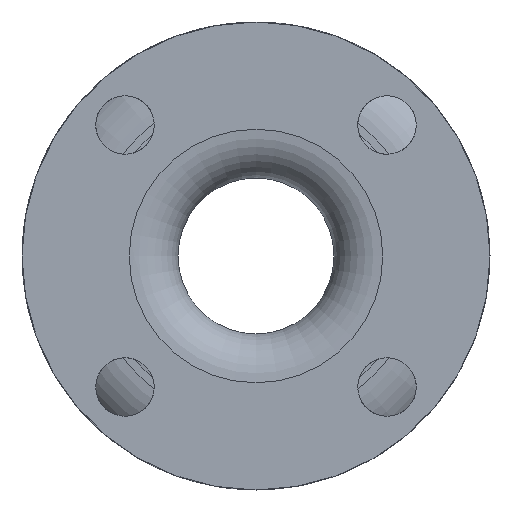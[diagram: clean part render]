
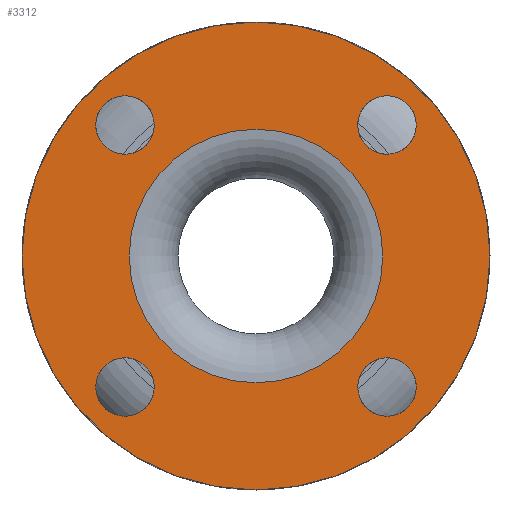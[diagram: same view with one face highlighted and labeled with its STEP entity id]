
A CAD part, left-side view. The second image highlights one B-rep face of the part: STEP entity #3312.
In plain terms, the highlighted planar face has unit normal (-1, 0, 0).
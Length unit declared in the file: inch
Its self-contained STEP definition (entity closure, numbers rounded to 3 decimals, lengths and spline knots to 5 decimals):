
#185=FACE_BOUND('',#670,.T.);
#186=FACE_BOUND('',#671,.T.);
#187=FACE_BOUND('',#672,.T.);
#188=FACE_BOUND('',#673,.T.);
#189=FACE_BOUND('',#674,.T.);
#425=FACE_OUTER_BOUND('',#669,.T.);
#669=EDGE_LOOP('',(#2843));
#670=EDGE_LOOP('',(#2844));
#671=EDGE_LOOP('',(#2845));
#672=EDGE_LOOP('',(#2846));
#673=EDGE_LOOP('',(#2847));
#674=EDGE_LOOP('',(#2848));
#1256=CIRCLE('',#3684,0.375);
#1257=CIRCLE('',#3686,0.375);
#1258=CIRCLE('',#3688,0.375);
#1259=CIRCLE('',#3690,0.375);
#1283=CIRCLE('',#3733,1.625);
#1284=CIRCLE('',#3735,3.);
#1565=VERTEX_POINT('',#5825);
#1566=VERTEX_POINT('',#5828);
#1567=VERTEX_POINT('',#5831);
#1568=VERTEX_POINT('',#5834);
#1592=VERTEX_POINT('',#5901);
#1593=VERTEX_POINT('',#5904);
#1996=EDGE_CURVE('',#1565,#1565,#1256,.T.);
#1997=EDGE_CURVE('',#1566,#1566,#1257,.T.);
#1998=EDGE_CURVE('',#1567,#1567,#1258,.T.);
#1999=EDGE_CURVE('',#1568,#1568,#1259,.T.);
#2023=EDGE_CURVE('',#1592,#1592,#1283,.T.);
#2024=EDGE_CURVE('',#1593,#1593,#1284,.T.);
#2843=ORIENTED_EDGE('',*,*,#2024,.F.);
#2844=ORIENTED_EDGE('',*,*,#2023,.T.);
#2845=ORIENTED_EDGE('',*,*,#1996,.T.);
#2846=ORIENTED_EDGE('',*,*,#1997,.T.);
#2847=ORIENTED_EDGE('',*,*,#1998,.T.);
#2848=ORIENTED_EDGE('',*,*,#1999,.T.);
#2957=PLANE('',#3734);
#3312=ADVANCED_FACE('',(#425,#185,#186,#187,#188,#189),#2957,.T.);
#3684=AXIS2_PLACEMENT_3D('',#5826,#4632,#4633);
#3686=AXIS2_PLACEMENT_3D('',#5829,#4636,#4637);
#3688=AXIS2_PLACEMENT_3D('',#5832,#4640,#4641);
#3690=AXIS2_PLACEMENT_3D('',#5835,#4644,#4645);
#3733=AXIS2_PLACEMENT_3D('',#5902,#4730,#4731);
#3734=AXIS2_PLACEMENT_3D('',#5903,#4732,#4733);
#3735=AXIS2_PLACEMENT_3D('',#5905,#4734,#4735);
#4632=DIRECTION('center_axis',(1.,0.,0.));
#4633=DIRECTION('ref_axis',(0.,0.,
1.));
#4636=DIRECTION('center_axis',(1.,0.,0.));
#4637=DIRECTION('ref_axis',(0.,1.,0.));
#4640=DIRECTION('center_axis',(1.,0.,0.));
#4641=DIRECTION('ref_axis',(0.,0.,
-1.));
#4644=DIRECTION('center_axis',(1.,0.,0.));
#4645=DIRECTION('ref_axis',(0.,-1.,0.));
#4730=DIRECTION('center_axis',(1.,0.,0.));
#4731=DIRECTION('ref_axis',(0.,0.,-1.));
#4732=DIRECTION('center_axis',(-1.,0.,0.));
#4733=DIRECTION('ref_axis',(0.,0.,1.));
#4734=DIRECTION('center_axis',(1.,0.,0.));
#4735=DIRECTION('ref_axis',(0.,0.,-1.));
#5825=CARTESIAN_POINT('',(-7.,-1.67938,-2.05438));
#5826=CARTESIAN_POINT('Origin',(-7.,-1.67938,-1.67938));
#5828=CARTESIAN_POINT('',(-7.,-2.05438,1.67938));
#5829=CARTESIAN_POINT('Origin',(-7.,-1.67938,1.67938));
#5831=CARTESIAN_POINT('',(-7.,1.67938,2.05438));
#5832=CARTESIAN_POINT('Origin',(-7.,1.67938,1.67938));
#5834=CARTESIAN_POINT('',(-7.,2.05438,-1.67938));
#5835=CARTESIAN_POINT('Origin',(-7.,1.67938,-1.67938));
#5901=CARTESIAN_POINT('',(-7.,1.625,0.));
#5902=CARTESIAN_POINT('Origin',(-7.,0.,0.));
#5903=CARTESIAN_POINT('Origin',(-7.,3.,0.));
#5904=CARTESIAN_POINT('',(-7.,3.,0.));
#5905=CARTESIAN_POINT('Origin',(-7.,0.,0.));
